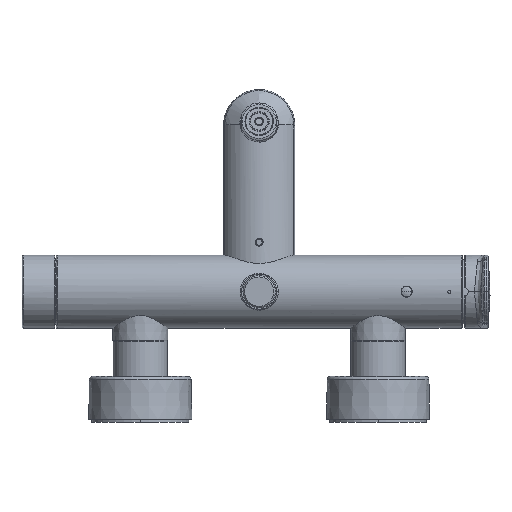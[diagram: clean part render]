
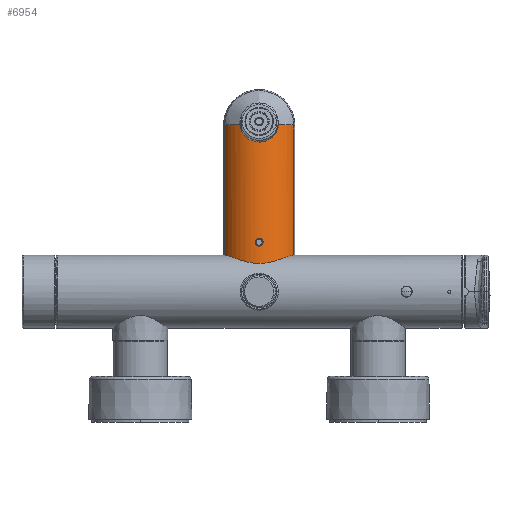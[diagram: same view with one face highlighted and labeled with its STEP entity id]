
A CAD part, front view. The second image highlights one B-rep face of the part: STEP entity #6954.
In plain terms, the highlighted cylindrical face has radius 25.009 mm (diameter 50.018 mm), a partial arc.
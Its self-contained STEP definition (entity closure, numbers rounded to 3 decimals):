
#426=CARTESIAN_POINT('',(-21.709,-1.746,22.934));
#428=CARTESIAN_POINT('',(-21.709,-1.746,22.934));
#429=CARTESIAN_POINT('',(-21.315,-2.437,22.881));
#430=CARTESIAN_POINT('',(-20.469,-3.773,22.717));
#431=CARTESIAN_POINT('',(-19.03,-5.64,22.323));
#432=CARTESIAN_POINT('',(-17.444,-7.351,21.816));
#433=CARTESIAN_POINT('',(-15.725,-8.898,21.229));
#434=CARTESIAN_POINT('',(-13.883,-10.277,20.593));
#435=CARTESIAN_POINT('',(-11.949,-11.47,19.95));
#436=CARTESIAN_POINT('',(-9.914,-12.486,19.326));
#437=CARTESIAN_POINT('',(-7.711,-13.345,18.741));
#438=CARTESIAN_POINT('',(-5.273,-14.027,18.232));
#439=CARTESIAN_POINT('',(-2.674,-14.462,17.885));
#440=CARTESIAN_POINT('',(-0.014,-14.611,
17.763));
#441=CARTESIAN_POINT('',(2.645,-14.465,17.883));
#442=CARTESIAN_POINT('',(5.246,-14.033,18.227));
#443=CARTESIAN_POINT('',(7.693,-13.352,18.736));
#444=CARTESIAN_POINT('',(9.907,-12.49,19.324));
#445=CARTESIAN_POINT('',(11.948,-11.47,19.949));
#446=CARTESIAN_POINT('',(13.883,-10.276,20.593));
#447=CARTESIAN_POINT('',(15.726,-8.897,21.229));
#448=CARTESIAN_POINT('',(17.446,-7.349,21.817));
#449=CARTESIAN_POINT('',(19.031,-5.639,22.324));
#450=CARTESIAN_POINT('',(20.47,-3.772,22.717));
#451=CARTESIAN_POINT('',(21.315,-2.437,22.881));
#452=CARTESIAN_POINT('',(21.709,-1.746,22.934));
#454=CARTESIAN_POINT('',(21.709,-1.746,22.934));
#874=DIRECTION('',(0.,0.041,0.999));
#875=VECTOR('',#874,82.268);
#876=CARTESIAN_POINT('',(-21.709,-1.746,22.934));
#877=LINE('',#876,#875);
#878=DIRECTION('',(0.,-0.041,-0.999));
#879=VECTOR('',#878,82.268);
#880=CARTESIAN_POINT('',(21.709,1.665,105.131));
#881=LINE('',#880,#879);
#882=CARTESIAN_POINT('',(-0.014,14.057,104.617));
#883=DIRECTION('',(0.,-0.041,-0.999));
#884=DIRECTION('',(-0.485,-0.874,0.036));
#885=AXIS2_PLACEMENT_3D('',#882,#883,#884);
#897=CARTESIAN_POINT('',(0.014,14.057,104.617));
#898=DIRECTION('',(0.,-0.041,-0.999));
#899=DIRECTION('',(0.868,-0.496,0.021));
#900=AXIS2_PLACEMENT_3D('',#897,#898,#899);
#906=CARTESIAN_POINT('',(4.489,-10.943,95.201));
#907=CARTESIAN_POINT('',(3.764,-11.086,94.933));
#908=CARTESIAN_POINT('',(2.269,-11.309,94.534));
#909=CARTESIAN_POINT('',(-0.023,-11.421,
94.339));
#910=CARTESIAN_POINT('',(-2.315,-11.305,94.542));
#911=CARTESIAN_POINT('',(-4.555,-10.967,95.149));
#912=CARTESIAN_POINT('',(-6.672,-10.433,96.168));
#913=CARTESIAN_POINT('',(-8.56,-9.763,97.588));
#914=CARTESIAN_POINT('',(-10.1,-9.062,99.336));
#915=CARTESIAN_POINT('',(-11.215,-8.446,101.297));
#916=CARTESIAN_POINT('',(-11.905,-7.995,103.364));
#917=CARTESIAN_POINT('',(-12.102,-7.826,104.803));
#918=CARTESIAN_POINT('',(-12.136,-7.777,105.523));
#932=CARTESIAN_POINT('',(12.136,-7.777,105.523));
#933=CARTESIAN_POINT('',(12.102,-7.826,104.802));
#934=CARTESIAN_POINT('',(11.904,-7.995,103.359));
#935=CARTESIAN_POINT('',(11.211,-8.449,101.286));
#936=CARTESIAN_POINT('',(10.089,-9.067,99.319));
#937=CARTESIAN_POINT('',(8.539,-9.772,97.566));
#938=CARTESIAN_POINT('',(6.636,-10.444,96.147));
#939=CARTESIAN_POINT('',(5.222,-10.798,95.471));
#940=CARTESIAN_POINT('',(4.489,-10.943,95.201));
#1457=CARTESIAN_POINT('',(-2.5,-13.881,
31.2));
#1458=CARTESIAN_POINT('',(-2.5,-13.87,
31.461));
#1459=CARTESIAN_POINT('',(-2.418,-13.857,
31.984));
#1460=CARTESIAN_POINT('',(-2.056,-13.861,
32.694));
#1461=CARTESIAN_POINT('',(-1.494,-13.879,
33.256));
#1462=CARTESIAN_POINT('',(-0.784,-13.897,
33.618));
#1463=CARTESIAN_POINT('',(0.006,-13.905,
33.742));
#1464=CARTESIAN_POINT('',(0.79,-13.897,
33.615));
#1465=CARTESIAN_POINT('',(1.498,-13.879,33.253));
#1466=CARTESIAN_POINT('',(2.06,-13.861,32.688));
#1467=CARTESIAN_POINT('',(2.418,-13.857,31.982));
#1468=CARTESIAN_POINT('',(2.5,-13.87,31.46));
#1469=CARTESIAN_POINT('',(2.5,-13.881,31.2));
#1475=CARTESIAN_POINT('',(2.5,-13.881,31.2));
#1476=CARTESIAN_POINT('',(2.5,-13.891,30.938));
#1477=CARTESIAN_POINT('',(2.417,-13.922,30.415));
#1478=CARTESIAN_POINT('',(2.054,-13.985,29.703));
#1479=CARTESIAN_POINT('',(1.49,-14.05,29.141));
#1480=CARTESIAN_POINT('',(0.783,-14.098,
28.783));
#1481=CARTESIAN_POINT('',(0.001,-14.116,
28.659));
#1482=CARTESIAN_POINT('',(-0.785,-14.098,
28.783));
#1483=CARTESIAN_POINT('',(-1.496,-14.049,
29.145));
#1484=CARTESIAN_POINT('',(-2.058,-13.984,
29.709));
#1485=CARTESIAN_POINT('',(-2.418,-13.922,
30.417));
#1486=CARTESIAN_POINT('',(-2.5,-13.891,
30.939));
#1487=CARTESIAN_POINT('',(-2.5,-13.881,
31.2));
#6242=CARTESIAN_POINT('',(-21.709,1.665,105.131));
#6243=VERTEX_POINT('',#6242);
#6248=CARTESIAN_POINT('',(21.709,1.665,105.131));
#6249=VERTEX_POINT('',#6248);
#6254=VERTEX_POINT('',#906);
#6255=VERTEX_POINT('',#918);
#6256=VERTEX_POINT('',#932);
#6279=VERTEX_POINT('',#426);
#6280=VERTEX_POINT('',#454);
#6602=VERTEX_POINT('',#1457);
#6603=VERTEX_POINT('',#1469);
#6930=CARTESIAN_POINT('',(0.,10.353,15.012));
#6931=DIRECTION('',(0.,0.041,0.999));
#6932=DIRECTION('',(-0.868,-0.496,0.021));
#6933=AXIS2_PLACEMENT_3D('',#6930,#6931,#6932);
#6934=CYLINDRICAL_SURFACE('',#6933,25.009);
#6935=ORIENTED_EDGE('',*,*,#6805,.T.);
#6937=ORIENTED_EDGE('',*,*,#6936,.F.);
#6939=ORIENTED_EDGE('',*,*,#6938,.F.);
#6941=ORIENTED_EDGE('',*,*,#6940,.F.);
#6943=ORIENTED_EDGE('',*,*,#6942,.F.);
#6944=ORIENTED_EDGE('',*,*,#6922,.T.);
#6945=ORIENTED_EDGE('',*,*,#6753,.F.);
#6946=EDGE_LOOP('',(#6935,#6937,#6939,#6941,#6943,#6944,#6945));
#6947=FACE_OUTER_BOUND('',#6946,.F.);
#6949=ORIENTED_EDGE('',*,*,#6948,.F.);
#6951=ORIENTED_EDGE('',*,*,#6950,.F.);
#6952=EDGE_LOOP('',(#6949,#6951));
#6953=FACE_BOUND('',#6952,.F.);
#6954=ADVANCED_FACE('',(#6947,#6953),#6934,.T.);
#453=B_SPLINE_CURVE_WITH_KNOTS('',3,(#428,#429,#430,#431,#432,#433,#434,#435,
#436,#437,#438,#439,#440,#441,#442,#443,#444,#445,#446,#447,#448,#449,#450,#451,
#452),.UNSPECIFIED.,.F.,.F.,(4,1,1,1,1,1,1,1,1,1,1,1,1,1,1,1,1,1,1,1,1,1,4),(
0.,0.045,0.091,0.136,0.182,
0.227,0.273,0.318,0.364,
0.409,0.455,0.5,0.545,0.591,
0.636,0.682,0.727,0.773,
0.818,0.864,0.909,0.955,1.),
.UNSPECIFIED.);
#886=CIRCLE('',#885,24.99);
#901=CIRCLE('',#900,24.99);
#919=B_SPLINE_CURVE_WITH_KNOTS('',3,(#906,#907,#908,#909,#910,#911,#912,#913,
#914,#915,#916,#917,#918),.UNSPECIFIED.,.F.,.F.,(4,1,1,1,1,1,1,1,1,1,4),(0.,
0.1,0.2,0.3,0.4,0.5,0.6,0.7,0.8,0.9,1.),.UNSPECIFIED.);
#941=B_SPLINE_CURVE_WITH_KNOTS('',3,(#932,#933,#934,#935,#936,#937,#938,#939,
#940),.UNSPECIFIED.,.F.,.F.,(4,1,1,1,1,1,4),(0.,0.167,
0.333,0.5,0.667,0.833,1.),
.UNSPECIFIED.);
#1470=B_SPLINE_CURVE_WITH_KNOTS('',3,(#1457,#1458,#1459,#1460,#1461,#1462,#1463,
#1464,#1465,#1466,#1467,#1468,#1469),.UNSPECIFIED.,.F.,.F.,(4,1,1,1,1,1,1,1,1,1,
4),(0.,0.1,0.2,0.3,0.4,0.5,0.6,0.7,0.8,0.9,1.),
.UNSPECIFIED.);
#1488=B_SPLINE_CURVE_WITH_KNOTS('',3,(#1475,#1476,#1477,#1478,#1479,#1480,#1481,
#1482,#1483,#1484,#1485,#1486,#1487),.UNSPECIFIED.,.F.,.F.,(4,1,1,1,1,1,1,1,1,1,
4),(0.,0.1,0.2,0.3,0.4,0.5,0.6,0.7,0.8,0.9,1.),
.UNSPECIFIED.);
#6753=EDGE_CURVE('',#6279,#6280,#453,.T.);
#6805=EDGE_CURVE('',#6279,#6243,#877,.T.);
#6922=EDGE_CURVE('',#6249,#6280,#881,.T.);
#6936=EDGE_CURVE('',#6255,#6243,#886,.T.);
#6938=EDGE_CURVE('',#6254,#6255,#919,.T.);
#6940=EDGE_CURVE('',#6256,#6254,#941,.T.);
#6942=EDGE_CURVE('',#6249,#6256,#901,.T.);
#6948=EDGE_CURVE('',#6602,#6603,#1470,.T.);
#6950=EDGE_CURVE('',#6603,#6602,#1488,.T.);
